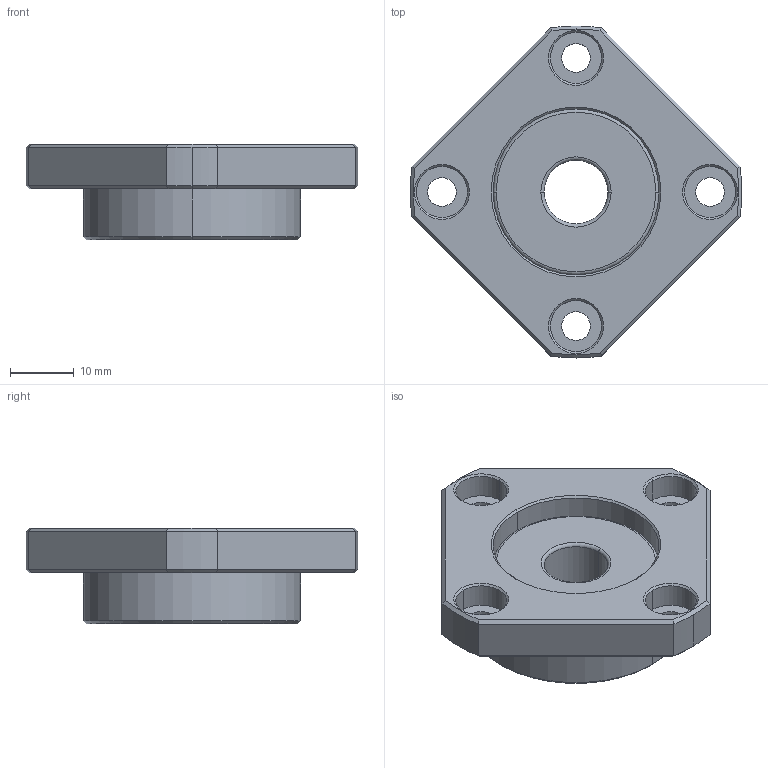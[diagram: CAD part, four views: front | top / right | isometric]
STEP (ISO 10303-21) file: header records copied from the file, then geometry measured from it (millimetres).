
FILE_DESCRIPTION (( 'STEP AP203' ), '1' );
FILE_NAME ('FSGF-12_203.STEP', '2013-02-28T00:08:14', ( '' ), ( '' ), 'SwSTEP 2.0', 'SolidWorks 2012', '' );
FILE_SCHEMA (( 'CONFIG_CONTROL_DESIGN' ));
Length unit declared in the file: millimetre
Products named in the file (1): FSGF-12_203
Bounding box: 51.93 x 52 x 15 mm (x, y, z)
Volume: 13792.1 mm3; surface area: 6407.8 mm2
Topology: 1 solids, 1 shells, 82 faces, 186 edges, 113 vertices
Faces by surface type: cylinder 29, cone 24, plane 21, torus 8
Entity records: 2424 total; most frequent: DIRECTION 441, CARTESIAN_POINT 430, ORIENTED_EDGE 372, AXIS2_PLACEMENT_3D 188, EDGE_CURVE 186, VERTEX_POINT 113, CIRCLE 105, EDGE_LOOP 99
